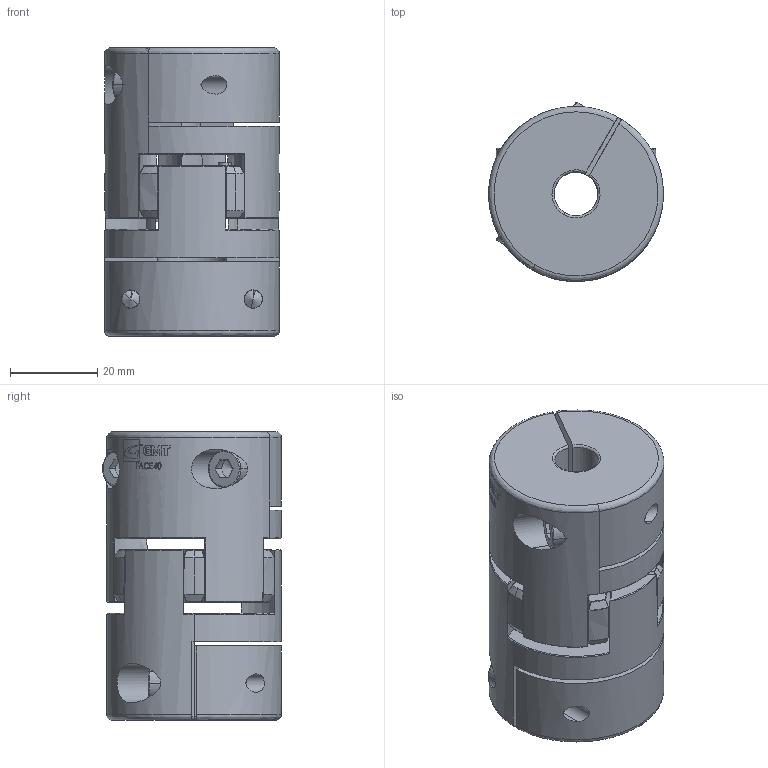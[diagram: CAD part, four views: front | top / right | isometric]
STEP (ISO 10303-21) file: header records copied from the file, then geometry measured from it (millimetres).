
FILE_DESCRIPTION (( 'STEP AP203' ), '1' );
FILE_NAME ('FACE40-B_R_W.STEP', '2008-04-04T06:38:26', ( '陳志豪' ), ( '高明鐵企業股份有限公司' ), 'SwSTEP 2.0', 'SolidWorks 2007', '' );
FILE_SCHEMA (( 'CONFIG_CONTROL_DESIGN' ));
Length unit declared in the file: millimetre
Products named in the file (1): FACE40-B_R_W
Bounding box: 40 x 40.96 x 66 mm (x, y, z)
Surface area: 22582.8 mm2 (no closed solid volume)
Topology: 0 solids, 4 shells, 422 faces, 1103 edges, 620 vertices
Faces by surface type: bspline 131, cylinder 121, plane 90, cone 80
Entity records: 18492 total; most frequent: CARTESIAN_POINT 9982, ORIENTED_EDGE 1965, DIRECTION 1353, EDGE_CURVE 1035, VERTEX_POINT 617, AXIS2_PLACEMENT_3D 547, B_SPLINE_CURVE_WITH_KNOTS 488, EDGE_LOOP 460
